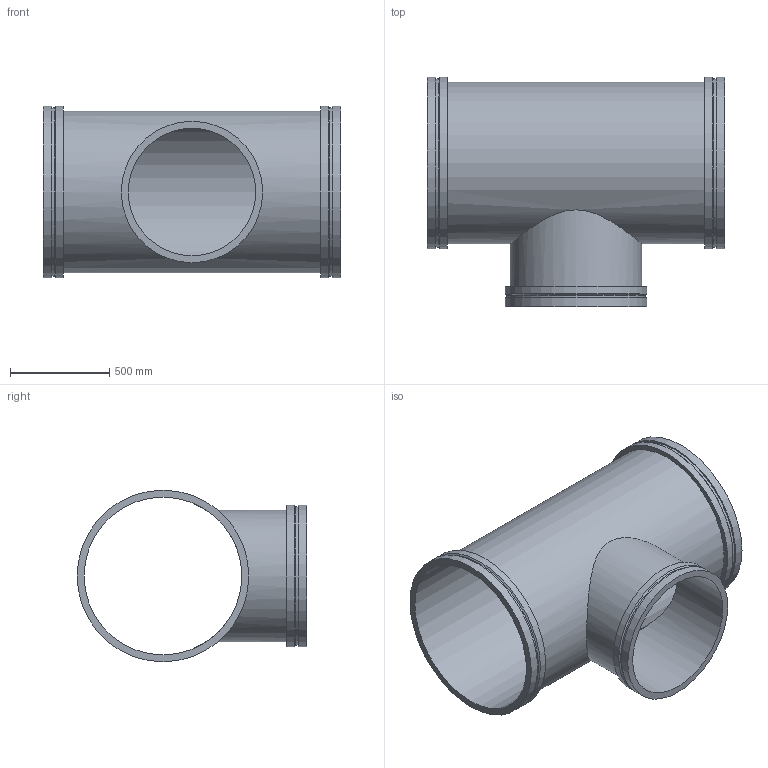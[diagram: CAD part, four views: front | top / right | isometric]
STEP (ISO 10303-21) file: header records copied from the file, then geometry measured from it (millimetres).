
FILE_DESCRIPTION(/* description */ ('VIC REDUCING TEE No W025 VR','CAx-IF Rec.Pracs.---Representation and Presentation of Product Manufacturing Information (PMI)---4.0---2014-10-13'),/* implementation_level */ '2;1');
FILE_NAME(/* name */ 'C:\Users\kkamble\AppData\Roaming\Autodesk\ApplicationPlugins\Back Up\Victaulic_Vic-Ring_Tee Reducing_No W25 VR (AGR)\Victaulic_Vic-Ring_Tee Reducing_No W25 VR (AGR)_32.0x26.0 (800x650).stp',/* time_stamp */ '2020-09-10T11:54:44+05:00',/* author */ ('mchristi'),/* organization */ ('Victaulic'),/* preprocessor_version */ 'ST-DEVELOPER v17.2',/* originating_system */ 'Autodesk Inventor 2019',/* authorisation */ '');
FILE_SCHEMA (('AP242_MANAGED_MODEL_BASED_3D_ENGINEERING_MIM_LF { 1 0 10303 442 1 1 4 }'));
Length unit declared in the file: inch
Products named in the file (1): W25 VR-32.0x26.0
Bounding box: 1498.6 x 1155.7 x 863.6 mm (x, y, z)
Volume: 58549776.9 mm3; surface area: 9028997.2 mm2
Topology: 1 solids, 1 shells, 25 faces, 68 edges, 52 vertices
Faces by surface type: cylinder 13, plane 9, cone 3
Full cylindrical faces by diameter (mm): 641.35 x1, 660.4 x1, 696.722 x1, 711.2 x2, 793.75 x1, 812.8 x1, 849.122 x2, 863.6 x4
Entity records: 1251 total; most frequent: CARTESIAN_POINT 407, DIRECTION 190, ORIENTED_EDGE 136, AXIS2_PLACEMENT_3D 87, EDGE_CURVE 68, VERTEX_POINT 52, CIRCLE 48, EDGE_LOOP 36
